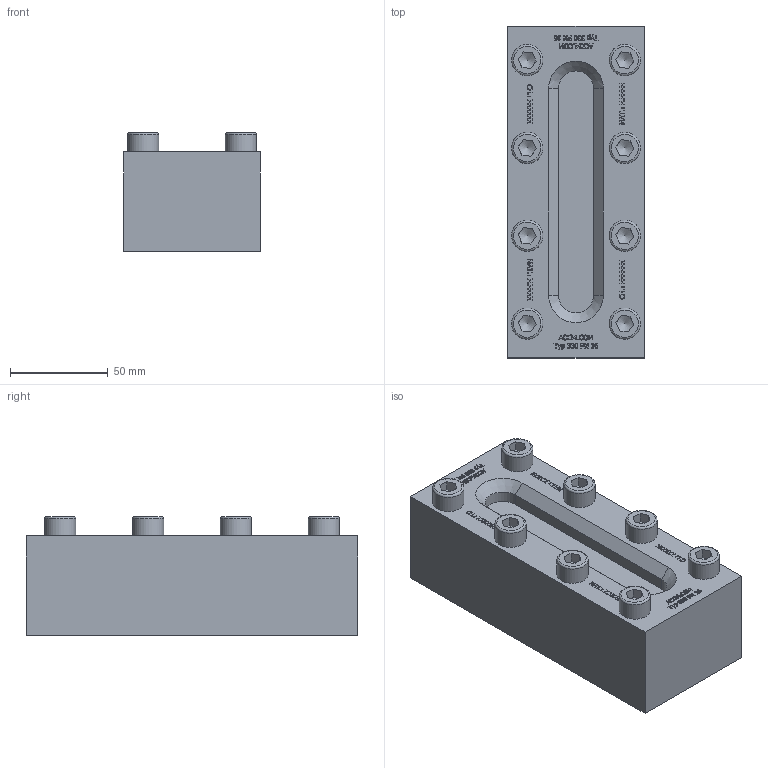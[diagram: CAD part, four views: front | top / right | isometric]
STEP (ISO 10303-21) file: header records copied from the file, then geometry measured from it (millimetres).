
FILE_DESCRIPTION(/* description */ (''),/* implementation_level */ '2;1');
FILE_NAME(/* name */ 'W:\Konstruktion_ACI\330\_Zeichnungen\STEP\ACI-330-170-16.stp',/* time_stamp */ '2022-03-01T17:07:40+01:00',/* author */ ('koslowksi'),/* organization */ (''),/* preprocessor_version */ 'ST-DEVELOPER v16.1',/* originating_system */ 'Autodesk Inventor 2016',/* authorisation */ '');
FILE_SCHEMA (('AUTOMOTIVE_DESIGN { 1 0 10303 214 3 1 1 }'));
Length unit declared in the file: centimetre
Products named in the file (1): ACI-330-170-16.stp
Bounding box: 70 x 170 x 60.9 mm (x, y, z)
Volume: 560335.3 mm3; surface area: 59626.4 mm2
Topology: 1 solids, 1 shells, 1206 faces, 3270 edges, 2176 vertices
Faces by surface type: plane 858, bspline 318, cylinder 12, cone 10, torus 8
Full cylindrical faces by diameter (mm): 16 x8
Entity records: 39990 total; most frequent: CARTESIAN_POINT 10827, ORIENTED_EDGE 6460, DIRECTION 4358, EDGE_CURVE 3230, LINE 2512, VECTOR 2512, VERTEX_POINT 2160, EDGE_LOOP 1340
